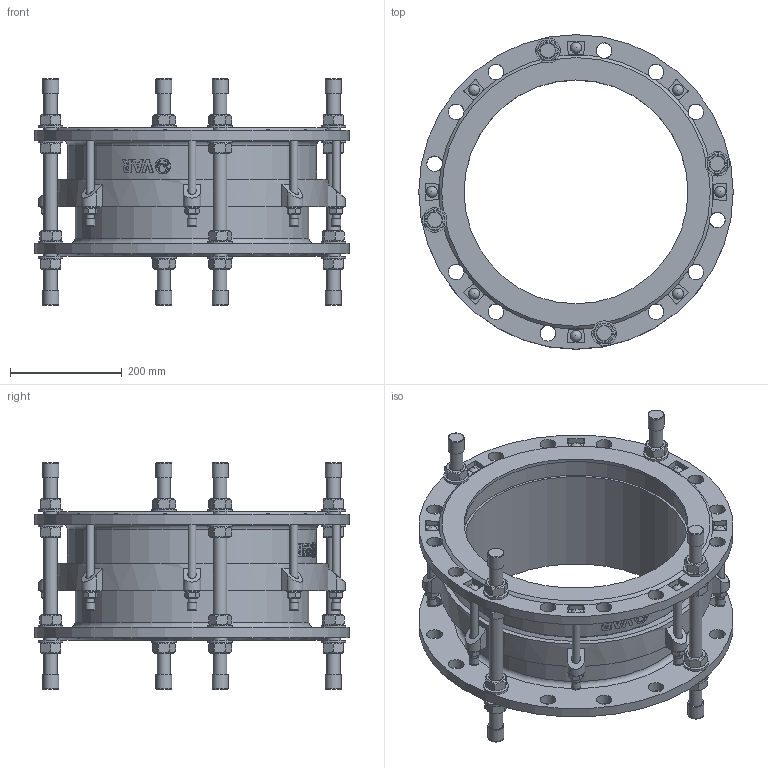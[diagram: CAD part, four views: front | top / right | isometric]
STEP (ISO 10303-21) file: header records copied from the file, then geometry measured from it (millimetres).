
FILE_DESCRIPTION(('STEP AP242'), '1');
FILE_NAME('Ìîíòàæíàÿ âñòàâêà', '', ('UNSPECIFIED'), ('UNSPECIFIED'), 'C3D Converter', 'C3D Toolkit', '');
FILE_SCHEMA(('AP242_MANAGED_MODEL_BASED_3D_ENGINEERING_MIM_LF { 1 0 10303 442 1 1 4 }'));
Length unit declared in the file: millimetre
Products named in the file (13): ШМ.М16.310
Assembly tree (80 placements, depth 2):
  (unnamed)
    (unnamed)
    (unnamed)
    (unnamed)
    (unnamed)  x16
    (unnamed)  x16
    ШМ.М16.310  x4
    (unnamed)  x8
    (unnamed)
    (unnamed)  x8
    (unnamed)  x8
    (unnamed)  x8
    (unnamed)  x8
Bounding box: 562 x 562 x 404.8 mm (x, y, z)
Volume: 10707754.2 mm3; surface area: 2080315.6 mm2
Topology: 80 solids, 80 shells, 907 faces, 2053 edges, 1305 vertices
Faces by surface type: plane 534, cylinder 218, cone 118, torus 18, extrusion 11, sphere 8
Full cylindrical faces by diameter (mm): 14 x24, 15 x8, 16 x8, 16.8 x8, 24 x28, 25 x16, 27.455 x1, 28 x40, 28.8 x8, 44 x16, 400 x2, 418 x2, 427 x2, 445 x1, 463 x1, 469 x1, 487 x1, 562 x2
Entity records: 21292 total; most frequent: CARTESIAN_POINT 10281, DIRECTION 1816, ORIENTED_EDGE 1646, EDGE_CURVE 823, AXIS2_PLACEMENT_3D 727, VERTEX_POINT 596, EDGE_LOOP 519, FACE_BOUND 389
